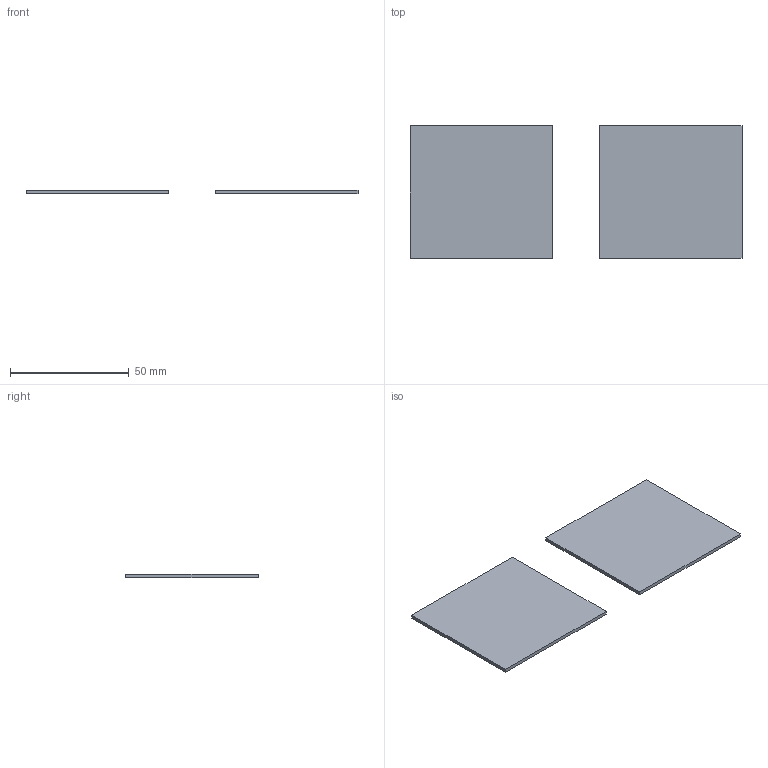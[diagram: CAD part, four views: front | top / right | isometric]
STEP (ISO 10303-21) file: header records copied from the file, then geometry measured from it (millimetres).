
FILE_DESCRIPTION(('STEP AP203'),'2;1');
FILE_NAME('MODULO_PLUSME_PCB.stp','2012-07-31T14:59:14',(''),(''),'2008.1.107','THINKDESIGN','');
FILE_SCHEMA(('CONFIG_CONTROL_DESIGN'));
Length unit declared in the file: millimetre
Bounding box: 140 x 56 x 1.5 mm (x, y, z)
Volume: 10071.2 mm3; surface area: 14156.9 mm2
Topology: 2 solids, 2 shells, 60 faces, 154 edges, 102 vertices
Faces by surface type: plane 36, bspline 24
Entity records: 2301 total; most frequent: CARTESIAN_POINT 942, ORIENTED_EDGE 308, DIRECTION 194, EDGE_CURVE 154, VERTEX_POINT 102, AXIS2_PLACEMENT_3D 74, B_SPLINE_CURVE_WITH_KNOTS 70, EDGE_LOOP 64
